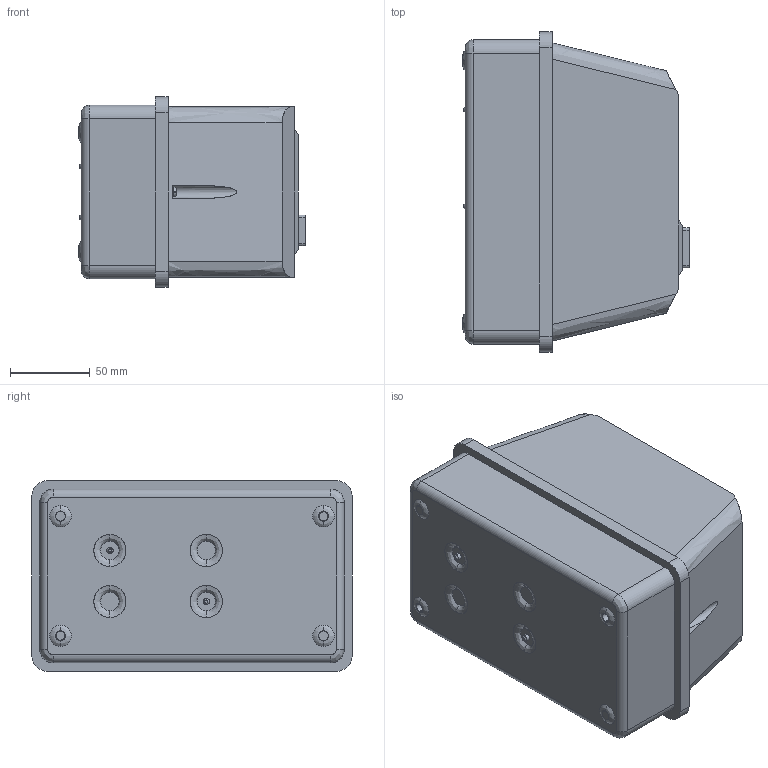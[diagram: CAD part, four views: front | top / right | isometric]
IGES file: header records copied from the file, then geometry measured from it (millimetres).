
Global section: file name: Filename.iges; native system: Open CASCADE 7.3; preprocessor: Open CASCADE IGES processor 7.3; date: 20200810.110351; units: millimetre
Bounding box: 142.1 x 201 x 119.5 mm (x, y, z)
Surface area: 119706.7 mm2 (no closed solid volume)
Topology: 0 solids, 0 shells, 607 faces, 3090 edges, 3090 vertices
Faces by surface type: plane 419, bspline 118, revolution 70
